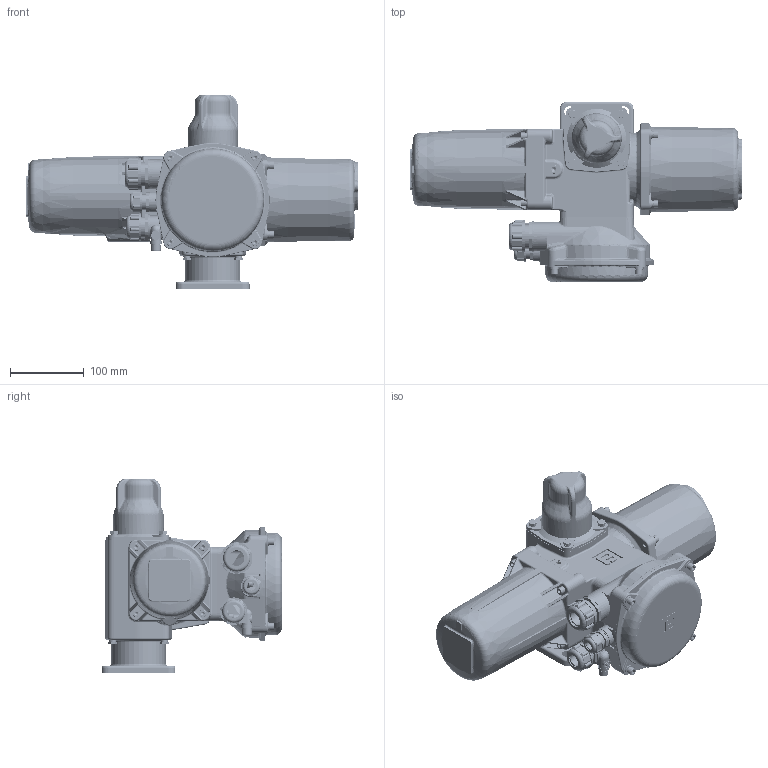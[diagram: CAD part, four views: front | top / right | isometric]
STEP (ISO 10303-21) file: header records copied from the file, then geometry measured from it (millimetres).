
FILE_DESCRIPTION(('STEP AP242'), '1');
FILE_NAME('9030', '', ('UNSPECIFIED'), ('UNSPECIFIED'), 'C3D Converter', 'C3D Toolkit', '');
FILE_SCHEMA(('AP242_MANAGED_MODEL_BASED_3D_ENGINEERING_MIM_LF { 1 0 10303 442 1 1 4 }'));
Length unit declared in the file: millimetre
Products named in the file (1): ГЗ-А.50 и ГЗ-А.70
Bounding box: 450 x 245 x 263.5 mm (x, y, z)
Surface area: 792247.9 mm2
Topology: 3 solids, 69 shells, 4088 faces, 10971 edges, 6953 vertices
Faces by surface type: plane 1592, cylinder 1080, cone 469, bspline 466, torus 392, sphere 89
Full cylindrical faces by diameter (mm): 1.5 x2, 2.4 x1, 2.459 x4, 2.675 x3, 2.729 x1, 3 x4, 3.2 x1, 3.242 x12, 3.5 x2, 3.545 x2, 4 x10, 4.134 x6, 4.2 x2, 4.3 x3, 4.48 x2, 4.5 x1, 4.917 x24, 5 x8, 5.1 x1, 5.3 x2, 6 x24, 6.4 x8, 6.5 x10, 6.647 x1, 6.8 x4, 7 x15, 7.5 x1, 8 x1, 8.4 x1, 8.9 x8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
Entity records: 221478 total; most frequent: CARTESIAN_POINT 93571, ORIENTED_EDGE 20232, DIRECTION 18724, EDGE_CURVE 10125, AXIS2_PLACEMENT_3D 7758, VERTEX_POINT 6844, EDGE_LOOP 5013, FACE_BOUND 4734
